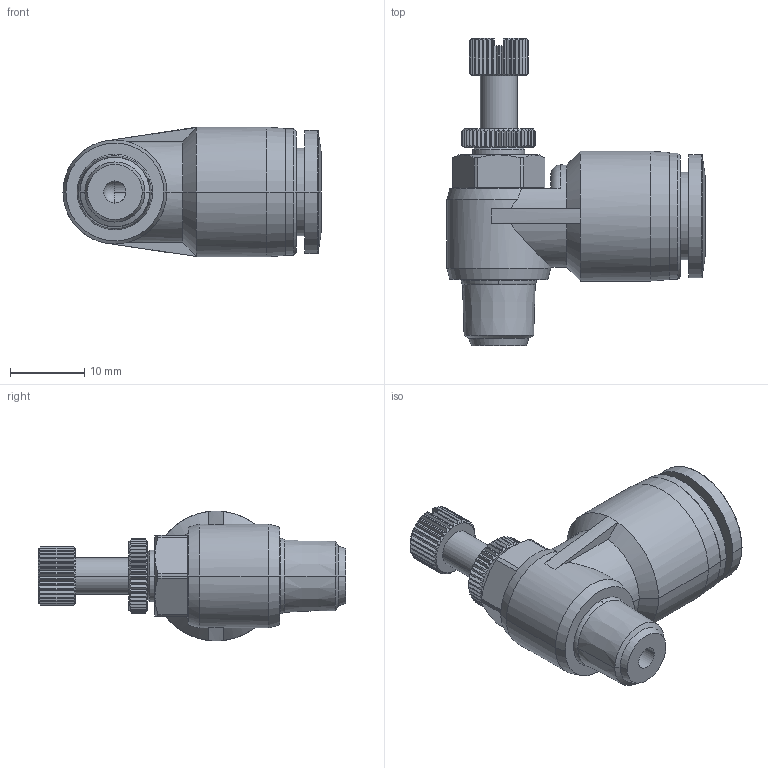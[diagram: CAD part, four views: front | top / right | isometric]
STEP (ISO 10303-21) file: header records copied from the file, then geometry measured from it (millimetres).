
FILE_DESCRIPTION (( 'STEP AP203' ), '1' );
FILE_NAME ('SCL10-01.STEP', '2020-05-12T15:37:01', ( '' ), ( '' ), 'SwSTEP 2.0', 'SolidWorks 2019', '' );
FILE_SCHEMA (( 'CONFIG_CONTROL_DESIGN' ));
Length unit declared in the file: millimetre
Products named in the file (1): SCL10-01
Bounding box: 34.8 x 41.4 x 17.5 mm (x, y, z)
Volume: 6320.4 mm3; surface area: 4192.4 mm2
Topology: 1 solids, 1 shells, 497 faces, 1116 edges, 632 vertices
Faces by surface type: plane 188, cone 186, cylinder 113, torus 5, bspline 4, sphere 1
Entity records: 13591 total; most frequent: CARTESIAN_POINT 3300, ORIENTED_EDGE 2230, DIRECTION 2185, EDGE_CURVE 1115, AXIS2_PLACEMENT_3D 928, VERTEX_POINT 632, EDGE_LOOP 511, ADVANCED_FACE 497
